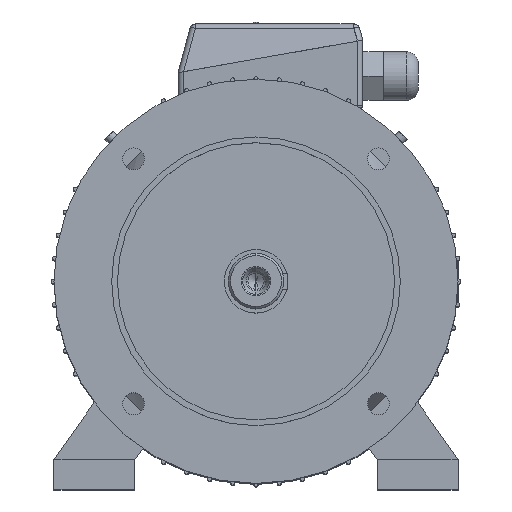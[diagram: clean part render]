
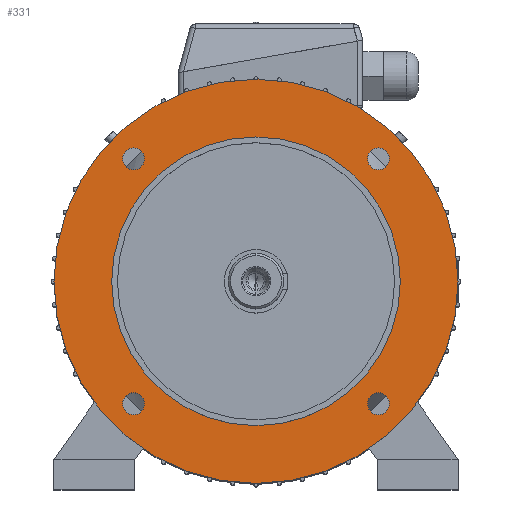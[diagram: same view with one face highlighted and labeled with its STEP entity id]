
A CAD part, top view. The second image highlights one B-rep face of the part: STEP entity #331.
In plain terms, the highlighted planar face has unit normal (0, 0, 1).
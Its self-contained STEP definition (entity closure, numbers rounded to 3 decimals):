
#67 = EDGE_LOOP ( 'NONE', ( #19202, #18125 ) ) ;
#331 = ADVANCED_FACE ( 'NONE', ( #13733, #13734, #13735, #13736, #13737, #13738 ), #13739, .F. ) ;
#16777 = EDGE_CURVE ( 'NONE', #19044, #611, #9925, .T. ) ;
#16949 = CIRCLE ( 'NONE', #16950, 175. ) ;
#16950 = AXIS2_PLACEMENT_3D ( 'NONE', #16951, #16952, #16953 ) ;
#16951 = CARTESIAN_POINT ( 'NONE',  ( 0., 0., 81. ) ) ;
#16952 = DIRECTION ( 'NONE',  ( 0., 0., 1. ) ) ;
#16953 = DIRECTION ( 'NONE',  ( 1., 0., 0. ) ) ;
#611 = VERTEX_POINT ( 'NONE', #13898 ) ;
#17221 = ORIENTED_EDGE ( 'NONE', *, *, #16777, .F. ) ;
#17836 = EDGE_LOOP ( 'NONE', ( #17221, #16155 ) ) ;
#1590 = CARTESIAN_POINT ( 'NONE',  ( 175., 0., 81. ) ) ;
#18125 = ORIENTED_EDGE ( 'NONE', *, *, #10944, .F. ) ;
#1757 = CIRCLE ( 'NONE', #1758, 175. ) ;
#1758 = AXIS2_PLACEMENT_3D ( 'NONE', #1759, #1760, #1761 ) ;
#1759 = CARTESIAN_POINT ( 'NONE',  ( 0., 0., 81. ) ) ;
#1760 = DIRECTION ( 'NONE',  ( 0., 0., 1. ) ) ;
#1761 = DIRECTION ( 'NONE',  ( 1., 0., 0. ) ) ;
#18338 = CARTESIAN_POINT ( 'NONE',  ( -96.566, 106.066, 81. ) ) ;
#18513 = CIRCLE ( 'NONE', #18514, 9.5 ) ;
#18514 = AXIS2_PLACEMENT_3D ( 'NONE', #18515, #18516, #18517 ) ;
#18515 = CARTESIAN_POINT ( 'NONE',  ( -106.066, 106.066, 81. ) ) ;
#18516 = DIRECTION ( 'NONE',  ( 0., 0., 1. ) ) ;
#18517 = DIRECTION ( 'NONE',  ( 1., 0., 0. ) ) ;
#18535 = CIRCLE ( 'NONE', #18536, 125. ) ;
#18536 = AXIS2_PLACEMENT_3D ( 'NONE', #18537, #18538, #18539 ) ;
#18537 = CARTESIAN_POINT ( 'NONE',  ( 0., 0., 81. ) ) ;
#18538 = DIRECTION ( 'NONE',  ( 0., 0., 1. ) ) ;
#18539 = DIRECTION ( 'NONE',  ( 1., 0., 0. ) ) ;
#2231 = EDGE_CURVE ( 'NONE', #13335, #14367, #15769, .T. ) ;
#18760 = EDGE_CURVE ( 'NONE', #10683, #11991, #11343, .T. ) ;
#19044 = VERTEX_POINT ( 'NONE', #11469 ) ;
#2684 = ORIENTED_EDGE ( 'NONE', *, *, #2231, .F. ) ;
#19202 = ORIENTED_EDGE ( 'NONE', *, *, #18760, .F. ) ;
#2835 = CARTESIAN_POINT ( 'NONE',  ( -175., 0., 81. ) ) ;
#2922 = CARTESIAN_POINT ( 'NONE',  ( 115.566, 106.066, 81. ) ) ;
#19322 = EDGE_CURVE ( 'NONE', #611, #19044, #11813, .T. ) ;
#19422 = CARTESIAN_POINT ( 'NONE',  ( -115.566, 106.066, 81. ) ) ;
#19469 = CARTESIAN_POINT ( 'NONE',  ( -125., 0., 81. ) ) ;
#3114 = CIRCLE ( 'NONE', #3115, 9.5 ) ;
#3115 = AXIS2_PLACEMENT_3D ( 'NONE', #3116, #3117, #3118 ) ;
#3116 = CARTESIAN_POINT ( 'NONE',  ( 106.066, 106.066, 81. ) ) ;
#3117 = DIRECTION ( 'NONE',  ( 0., 0., 1. ) ) ;
#3118 = DIRECTION ( 'NONE',  ( 1., 0., 0. ) ) ;
#19664 = CARTESIAN_POINT ( 'NONE',  ( 125., 0., 81. ) ) ;
#3301 = EDGE_LOOP ( 'NONE', ( #2684, #12494 ) ) ;
#3405 = CIRCLE ( 'NONE', #3406, 9.5 ) ;
#3406 = AXIS2_PLACEMENT_3D ( 'NONE', #3407, #3408, #3409 ) ;
#3407 = CARTESIAN_POINT ( 'NONE',  ( -106.066, 106.066, 81. ) ) ;
#3408 = DIRECTION ( 'NONE',  ( 0., 0., 1. ) ) ;
#3409 = DIRECTION ( 'NONE',  ( 1., 0., 0. ) ) ;
#3584 = EDGE_CURVE ( 'NONE', #10538, #9214, #16949, .T. ) ;
#3750 = CARTESIAN_POINT ( 'NONE',  ( 96.566, 106.066, 81. ) ) ;
#4025 = ORIENTED_EDGE ( 'NONE', *, *, #3584, .T. ) ;
#4647 = ORIENTED_EDGE ( 'NONE', *, *, #9479, .T. ) ;
#5464 = VERTEX_POINT ( 'NONE', #18338 ) ;
#5466 = EDGE_LOOP ( 'NONE', ( #4647, #4025 ) ) ;
#5733 = EDGE_CURVE ( 'NONE', #6779, #5464, #18513, .T. ) ;
#5758 = EDGE_CURVE ( 'NONE', #6849, #7112, #18535, .T. ) ;
#6201 = ORIENTED_EDGE ( 'NONE', *, *, #5758, .F. ) ;
#6601 = CARTESIAN_POINT ( 'NONE',  ( 115.566, -106.066, 81. ) ) ;
#6755 = ORIENTED_EDGE ( 'NONE', *, *, #15847, .F. ) ;
#6779 = VERTEX_POINT ( 'NONE', #19422 ) ;
#6840 = CIRCLE ( 'NONE', #6841, 9.5 ) ;
#6841 = AXIS2_PLACEMENT_3D ( 'NONE', #6842, #6843, #6844 ) ;
#6842 = CARTESIAN_POINT ( 'NONE',  ( 106.066, -106.066, 81. ) ) ;
#6843 = DIRECTION ( 'NONE',  ( 0., 0., 1. ) ) ;
#6844 = DIRECTION ( 'NONE',  ( 1., 0., 0. ) ) ;
#6849 = VERTEX_POINT ( 'NONE', #19469 ) ;
#7112 = VERTEX_POINT ( 'NONE', #19664 ) ;
#7924 = CARTESIAN_POINT ( 'NONE',  ( 96.566, -106.066, 81. ) ) ;
#8987 = CIRCLE ( 'NONE', #8988, 125. ) ;
#8988 = AXIS2_PLACEMENT_3D ( 'NONE', #8989, #8990, #8991 ) ;
#8989 = CARTESIAN_POINT ( 'NONE',  ( 0., 0., 81. ) ) ;
#8990 = DIRECTION ( 'NONE',  ( 0., 0., 1. ) ) ;
#8991 = DIRECTION ( 'NONE',  ( 1., 0., 0. ) ) ;
#9214 = VERTEX_POINT ( 'NONE', #1590 ) ;
#9479 = EDGE_CURVE ( 'NONE', #9214, #10538, #1757, .T. ) ;
#9925 = CIRCLE ( 'NONE', #9930, 9.5 ) ;
#9930 = AXIS2_PLACEMENT_3D ( 'NONE', #9931, #9932, #9933 ) ;
#9931 = CARTESIAN_POINT ( 'NONE',  ( -106.066, -106.066, 81. ) ) ;
#9932 = DIRECTION ( 'NONE',  ( 0., 0., 1. ) ) ;
#9933 = DIRECTION ( 'NONE',  ( 1., 0., 0. ) ) ;
#10538 = VERTEX_POINT ( 'NONE', #2835 ) ;
#10683 = VERTEX_POINT ( 'NONE', #2922 ) ;
#10898 = ORIENTED_EDGE ( 'NONE', *, *, #5733, .F. ) ;
#10944 = EDGE_CURVE ( 'NONE', #11991, #10683, #3114, .T. ) ;
#11343 = CIRCLE ( 'NONE', #11344, 9.5 ) ;
#11344 = AXIS2_PLACEMENT_3D ( 'NONE', #11345, #11346, #11347 ) ;
#11345 = CARTESIAN_POINT ( 'NONE',  ( 106.066, 106.066, 81. ) ) ;
#11346 = DIRECTION ( 'NONE',  ( 0., 0., 1. ) ) ;
#11347 = DIRECTION ( 'NONE',  ( 1., 0., 0. ) ) ;
#11469 = CARTESIAN_POINT ( 'NONE',  ( -96.566, -106.066, 81. ) ) ;
#11503 = EDGE_CURVE ( 'NONE', #5464, #6779, #3405, .T. ) ;
#11813 = CIRCLE ( 'NONE', #11814, 9.5 ) ;
#11814 = AXIS2_PLACEMENT_3D ( 'NONE', #11815, #11822, #11823 ) ;
#11815 = CARTESIAN_POINT ( 'NONE',  ( -106.066, -106.066, 81. ) ) ;
#11822 = DIRECTION ( 'NONE',  ( 0., 0., 1. ) ) ;
#11823 = DIRECTION ( 'NONE',  ( 1., 0., 0. ) ) ;
#11944 = ORIENTED_EDGE ( 'NONE', *, *, #11503, .F. ) ;
#11991 = VERTEX_POINT ( 'NONE', #3750 ) ;
#12449 = EDGE_LOOP ( 'NONE', ( #11944, #10898 ) ) ;
#12494 = ORIENTED_EDGE ( 'NONE', *, *, #13416, .F. ) ;
#13335 = VERTEX_POINT ( 'NONE', #6601 ) ;
#13416 = EDGE_CURVE ( 'NONE', #14367, #13335, #6840, .T. ) ;
#13733 = FACE_BOUND ( 'NONE', #67, .T. ) ;
#13734 = FACE_BOUND ( 'NONE', #17836, .T. ) ;
#13735 = FACE_BOUND ( 'NONE', #15867, .T. ) ;
#13736 = FACE_OUTER_BOUND ( 'NONE', #5466, .T. ) ;
#13737 = FACE_BOUND ( 'NONE', #3301, .T. ) ;
#13738 = FACE_BOUND ( 'NONE', #12449, .T. ) ;
#13739 = PLANE ( 'NONE',  #13740 ) ;
#13740 = AXIS2_PLACEMENT_3D ( 'NONE', #13741, #13742, #13743 ) ;
#13741 = CARTESIAN_POINT ( 'NONE',  ( 0., 175., 81. ) ) ;
#13742 = DIRECTION ( 'NONE',  ( 0., 0., -1. ) ) ;
#13743 = DIRECTION ( 'NONE',  ( -1., 0., 0. ) ) ;
#13898 = CARTESIAN_POINT ( 'NONE',  ( -115.566, -106.066, 81. ) ) ;
#14367 = VERTEX_POINT ( 'NONE', #7924 ) ;
#15769 = CIRCLE ( 'NONE', #15770, 9.5 ) ;
#15770 = AXIS2_PLACEMENT_3D ( 'NONE', #15771, #15780, #15781 ) ;
#15771 = CARTESIAN_POINT ( 'NONE',  ( 106.066, -106.066, 81. ) ) ;
#15780 = DIRECTION ( 'NONE',  ( 0., 0., 1. ) ) ;
#15781 = DIRECTION ( 'NONE',  ( 1., 0., 0. ) ) ;
#15847 = EDGE_CURVE ( 'NONE', #7112, #6849, #8987, .T. ) ;
#15867 = EDGE_LOOP ( 'NONE', ( #6755, #6201 ) ) ;
#16155 = ORIENTED_EDGE ( 'NONE', *, *, #19322, .F. ) ;
